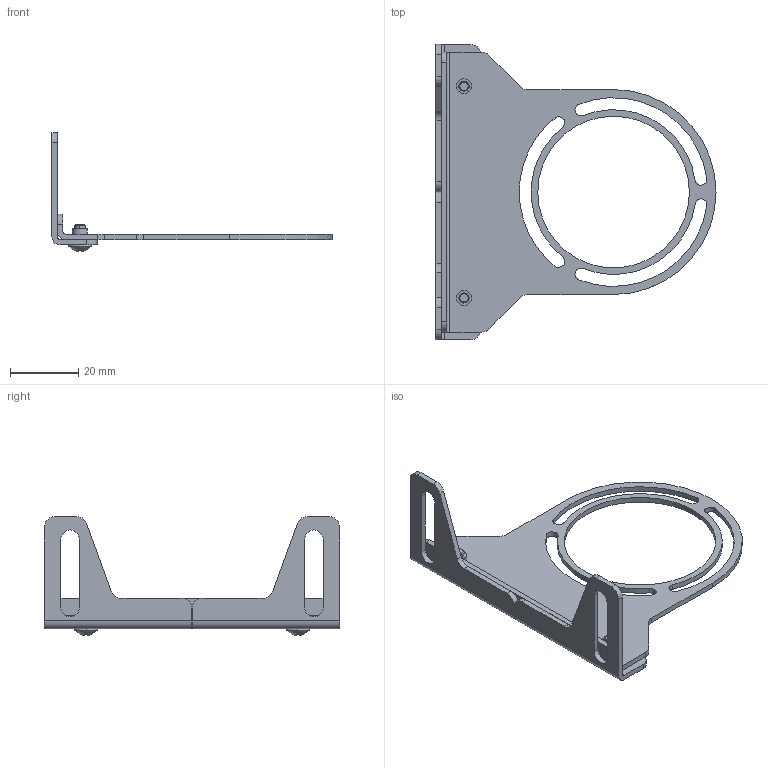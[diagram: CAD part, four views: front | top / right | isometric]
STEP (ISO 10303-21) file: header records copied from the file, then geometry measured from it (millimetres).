
FILE_DESCRIPTION (( 'STEP AP203' ), '1' );
FILE_NAME ('BKT-TKTOP2 REV1.0 assy.STEP', '2025-12-11T05:32:01', ( 'admin' ), ( '' ), 'SwSTEP 2.0', 'SolidWorks 2012', '' );
FILE_SCHEMA (( 'CONFIG_CONTROL_DESIGN' ));
Length unit declared in the file: millimetre
Products named in the file (5): Bolt M3x6L; BKT-TKF3 MB_1; BKT-TKF3 MB_2; BKT-TKTOP2 REV1.0 assy; BKT-TKF3-T2
Assembly tree (5 placements, depth 2):
  BKT-TKTOP2 REV1.0 assy
    BKT-TKF3-T2
    BKT-TKF3 MB_1
    BKT-TKF3 MB_2
    Bolt M3x6L  x2
Bounding box: 82 x 86.4 x 34.77 mm (x, y, z)
Volume: 8477.7 mm3; surface area: 12833.5 mm2
Topology: 5 solids, 5 shells, 151 faces, 411 edges, 272 vertices
Faces by surface type: plane 71, cylinder 66, torus 8, cone 4, sphere 2
Entity records: 4702 total; most frequent: DIRECTION 779, CARTESIAN_POINT 714, ORIENTED_EDGE 694, EDGE_CURVE 347, AXIS2_PLACEMENT_3D 295, VERTEX_POINT 230, LINE 189, VECTOR 189
